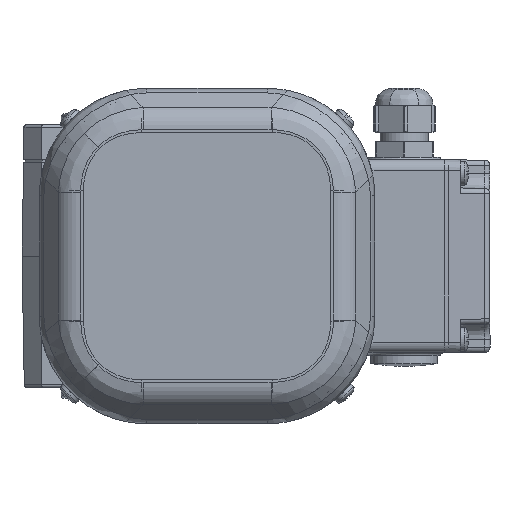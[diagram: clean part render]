
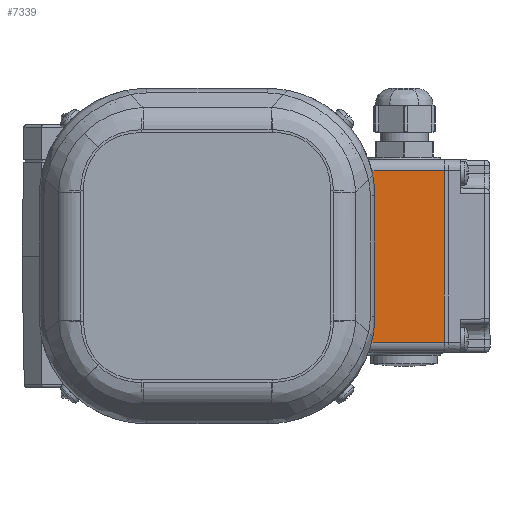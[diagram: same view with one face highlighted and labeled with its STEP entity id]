
A CAD part, left-side view. The second image highlights one B-rep face of the part: STEP entity #7339.
In plain terms, the highlighted planar face has unit normal (-1, 0, 0).
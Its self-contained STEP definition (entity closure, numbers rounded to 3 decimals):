
#1252 = DIRECTION ( 'NONE',  ( 0., 1., 0. ) ) ;
#1740 = DIRECTION ( 'NONE',  ( 0., 0., 1. ) ) ;
#4307 = CARTESIAN_POINT ( 'NONE',  ( -34., 32., 0. ) ) ;
#6549 = VERTEX_POINT ( 'NONE', #34352 ) ;
#7339 = ADVANCED_FACE ( 'NONE', ( #42427 ), #32360, .F. ) ;
#9041 = VECTOR ( 'NONE', #57881, 1000. ) ;
#10739 = CARTESIAN_POINT ( 'NONE',  ( -34., 0., 0. ) ) ;
#11536 = DIRECTION ( 'NONE',  ( 0., 0., 1. ) ) ;
#12364 = ORIENTED_EDGE ( 'NONE', *, *, #25036, .F. ) ;
#12403 = VERTEX_POINT ( 'NONE', #34830 ) ;
#14896 = LINE ( 'NONE', #10739, #9041 ) ;
#16109 = EDGE_CURVE ( 'NONE', #12403, #43521, #14896, .T. ) ;
#16938 = AXIS2_PLACEMENT_3D ( 'NONE', #28193, #18966, #50431 ) ;
#16951 = ORIENTED_EDGE ( 'NONE', *, *, #16109, .T. ) ;
#18966 = DIRECTION ( 'NONE',  ( 1., 0., 0. ) ) ;
#25036 = EDGE_CURVE ( 'NONE', #45324, #43521, #25536, .T. ) ;
#25536 = LINE ( 'NONE', #52244, #25731 ) ;
#25731 = VECTOR ( 'NONE', #11536, 1000. ) ;
#28193 = CARTESIAN_POINT ( 'NONE',  ( -34., -32., 0. ) ) ;
#29685 = CARTESIAN_POINT ( 'NONE',  ( -34., -32., -15. ) ) ;
#31389 = LINE ( 'NONE', #58383, #32175 ) ;
#32175 = VECTOR ( 'NONE', #1252, 1000. ) ;
#32360 = PLANE ( 'NONE',  #16938 ) ;
#34352 = CARTESIAN_POINT ( 'NONE',  ( -34., -32., -30. ) ) ;
#34830 = CARTESIAN_POINT ( 'NONE',  ( -34., -32., 0. ) ) ;
#41555 = EDGE_CURVE ( 'NONE', #6549, #12403, #52221, .T. ) ;
#41563 = EDGE_CURVE ( 'NONE', #6549, #45324, #31389, .T. ) ;
#42427 = FACE_OUTER_BOUND ( 'NONE', #55639, .T. ) ;
#43521 = VERTEX_POINT ( 'NONE', #4307 ) ;
#45324 = VERTEX_POINT ( 'NONE', #56164 ) ;
#45428 = VECTOR ( 'NONE', #1740, 1000. ) ;
#46836 = ORIENTED_EDGE ( 'NONE', *, *, #41555, .T. ) ;
#50374 = ORIENTED_EDGE ( 'NONE', *, *, #41563, .F. ) ;
#50431 = DIRECTION ( 'NONE',  ( 0., 0., -1. ) ) ;
#52221 = LINE ( 'NONE', #29685, #45428 ) ;
#52244 = CARTESIAN_POINT ( 'NONE',  ( -34., 32., -15. ) ) ;
#55639 = EDGE_LOOP ( 'NONE', ( #50374, #46836, #16951, #12364 ) ) ;
#56164 = CARTESIAN_POINT ( 'NONE',  ( -34., 32., -30. ) ) ;
#57881 = DIRECTION ( 'NONE',  ( 0., 1., 0. ) ) ;
#58383 = CARTESIAN_POINT ( 'NONE',  ( -34., 0., -30. ) ) ;
